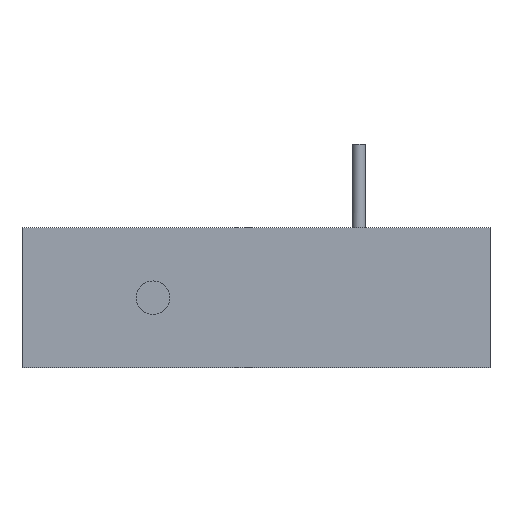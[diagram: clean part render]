
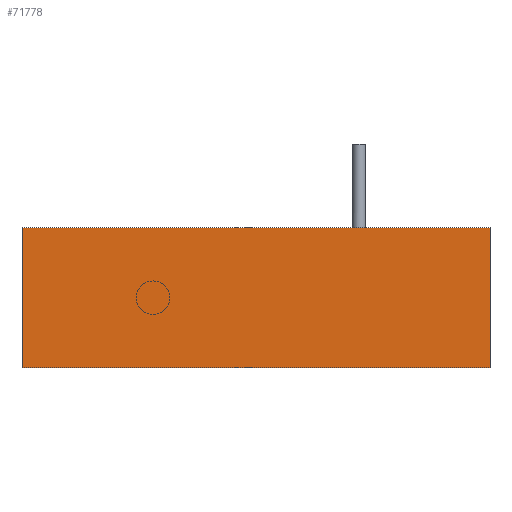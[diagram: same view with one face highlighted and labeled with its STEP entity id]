
A CAD part, front view. The second image highlights one B-rep face of the part: STEP entity #71778.
In plain terms, the highlighted planar face has unit normal (0, -1, 0).
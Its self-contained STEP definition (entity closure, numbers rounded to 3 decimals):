
#31181=DIRECTION('',(0.,0.,-1.));
#31182=VECTOR('',#31181,75.);
#31183=CARTESIAN_POINT('',(-180.,-10.,37.5));
#31184=LINE('',#31183,#31182);
#31185=DIRECTION('',(-1.,0.,0.));
#31186=VECTOR('',#31185,250.);
#31187=CARTESIAN_POINT('',(70.,-10.,37.5));
#31188=LINE('',#31187,#31186);
#31189=DIRECTION('',(0.,0.,1.));
#31190=VECTOR('',#31189,75.);
#31191=CARTESIAN_POINT('',(70.,-10.,-37.5));
#31192=LINE('',#31191,#31190);
#31193=DIRECTION('',(1.,0.,0.));
#31194=VECTOR('',#31193,250.);
#31195=CARTESIAN_POINT('',(-180.,-10.,-37.5));
#31196=LINE('',#31195,#31194);
#34925=CARTESIAN_POINT('',(-180.,-10.,-37.5));
#34926=CARTESIAN_POINT('',(70.,-10.,-37.5));
#34927=VERTEX_POINT('',#34925);
#34928=VERTEX_POINT('',#34926);
#34929=CARTESIAN_POINT('',(70.,-10.,37.5));
#34930=CARTESIAN_POINT('',(-180.,-10.,37.5));
#34931=VERTEX_POINT('',#34929);
#34932=VERTEX_POINT('',#34930);
#71764=CARTESIAN_POINT('',(-55.,-10.,0.));
#71765=DIRECTION('',(0.,-1.,0.));
#71766=DIRECTION('',(1.,0.,0.));
#71767=AXIS2_PLACEMENT_3D('',#71764,#71765,#71766);
#71768=PLANE('',#71767);
#71769=ORIENTED_EDGE('',*,*,#71754,.F.);
#71771=ORIENTED_EDGE('',*,*,#71770,.F.);
#71773=ORIENTED_EDGE('',*,*,#71772,.F.);
#71775=ORIENTED_EDGE('',*,*,#71774,.F.);
#71776=EDGE_LOOP('',(#71769,#71771,#71773,#71775));
#71777=FACE_OUTER_BOUND('',#71776,.F.);
#71778=ADVANCED_FACE('',(#71777),#71768,.T.);
#71754=EDGE_CURVE('',#34932,#34927,#31184,.T.);
#71770=EDGE_CURVE('',#34931,#34932,#31188,.T.);
#71772=EDGE_CURVE('',#34928,#34931,#31192,.T.);
#71774=EDGE_CURVE('',#34927,#34928,#31196,.T.);
